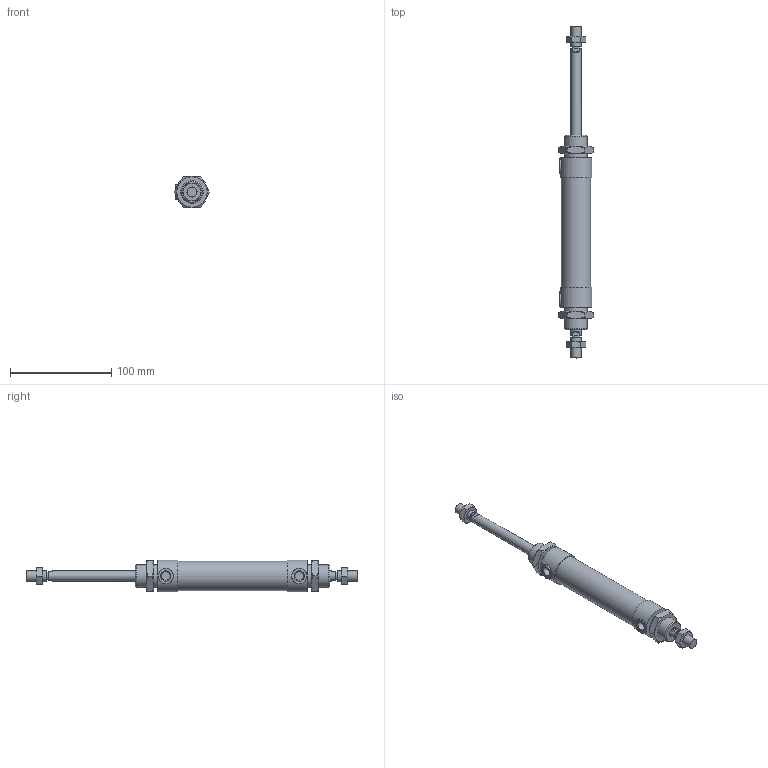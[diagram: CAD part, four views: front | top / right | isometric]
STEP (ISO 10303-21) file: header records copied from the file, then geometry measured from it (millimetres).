
FILE_DESCRIPTION((''),'2;1');
FILE_NAME('L:\Lib-3d\1200\CILINDRI\1232\1232_25_0080.stp','2006-01-05T14:36:12',('medicfa1'),(''),'Autodesk Inventor 10','Autodesk Inventor 10','');
FILE_SCHEMA(('AUTOMOTIVE_DESIGN { 1 0 10303 214 1 1 1 1 }'));
Length unit declared in the file: millimetre
Products named in the file (5): 1232_25_0080; C1232_25_80; S1232_25_80; 1200_25_05; 1200_25_06
Assembly tree (6 placements, depth 2):
  1232_25_0080
    C1232_25_80
    S1232_25_80
    1200_25_05  x2
    1200_25_06  x2
Bounding box: 34.64 x 328 x 31.5 mm (x, y, z)
Volume: 137139.3 mm3; surface area: 41155.1 mm2
Topology: 6 solids, 6 shells, 141 faces, 299 edges, 178 vertices
Faces by surface type: plane 62, cone 54, cylinder 15, bspline 10
Full cylindrical faces by diameter (mm): 8.7 x2, 8.8 x2, 10 x4, 15 x2, 22 x2, 29 x1, 31.5 x2
Entity records: 2620 total; most frequent: CARTESIAN_POINT 721, DIRECTION 390, ORIENTED_EDGE 324, AXIS2_PLACEMENT_3D 177, EDGE_CURVE 162, EDGE_LOOP 136, VERTEX_POINT 110, FACE_OUTER_BOUND 95
